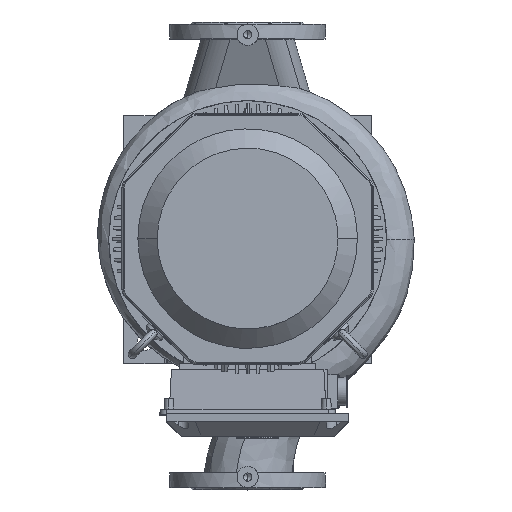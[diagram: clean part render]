
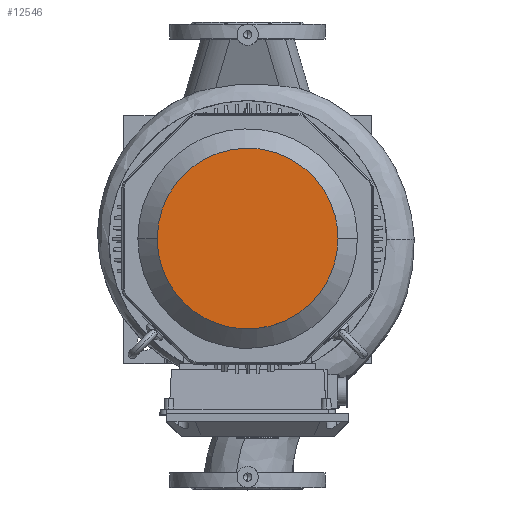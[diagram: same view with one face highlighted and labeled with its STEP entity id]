
A CAD part, top view. The second image highlights one B-rep face of the part: STEP entity #12546.
In plain terms, the highlighted free-form (B-spline) face has degree [1, 1] with [2, 2] control points.
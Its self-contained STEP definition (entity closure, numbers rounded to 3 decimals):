
#12546=ADVANCED_FACE('     F83',(#25190),#25191,.T.);
#12722=EDGE_CURVE('    E195',#25456,#25457,#25458,.T.);
#12726=EDGE_CURVE('    E195',#25457,#25456,#25462,.T.);
#25190=FACE_OUTER_BOUND('',#58738,.T.);
#25191=B_SPLINE_SURFACE_WITH_KNOTS('',1,1,((#58739,#58740),(#58741,#58742)),.UNSPECIFIED.,.F.,.F.,.F.,(2,2),(2,2),(0.044,0.955),(0.039,0.96),.UNSPECIFIED.);
#25456=VERTEX_POINT('',#60294);
#25457=VERTEX_POINT('',#60295);
#25458=(B_SPLINE_CURVE(2,(#60297,#60298,#60299,#60300,#60301),.UNSPECIFIED.,.F.,.F.)B_SPLINE_CURVE_WITH_KNOTS((3,2,3),(62.047,82.73,124.095),.UNSPECIFIED.)RATIONAL_B_SPLINE_CURVE((0.75,0.75,1.0,0.5,1.0))BOUNDED_CURVE()REPRESENTATION_ITEM('')GEOMETRIC_REPRESENTATION_ITEM()CURVE());
#25462=(B_SPLINE_CURVE(2,(#60315,#60316,#60317,#60318,#60319),.UNSPECIFIED.,.F.,.F.)B_SPLINE_CURVE_WITH_KNOTS((3,2,3),(0.0,41.365,62.047),.UNSPECIFIED.)RATIONAL_B_SPLINE_CURVE((1.0,0.5,1.0,0.75,0.75))BOUNDED_CURVE()REPRESENTATION_ITEM('')GEOMETRIC_REPRESENTATION_ITEM()CURVE());
#58738=EDGE_LOOP('',(#78895,#78896));
#58739=CARTESIAN_POINT('',(-148.051,129.131,-177.0));
#58740=CARTESIAN_POINT('',(-148.051,-126.525,-177.0));
#58741=CARTESIAN_POINT('',(107.447,129.131,-177.0));
#58742=CARTESIAN_POINT('',(107.447,-126.525,-177.0));
#60294=CARTESIAN_POINT('',(-147.622,1.096,-177.0));
#60295=CARTESIAN_POINT('',(107.438,1.096,-177.0));
#60297=CARTESIAN_POINT('',(-147.622,1.096,-177.0));
#60298=CARTESIAN_POINT('',(-147.622,-72.533,-177.0));
#60299=CARTESIAN_POINT('',(-83.857,-109.348,-177.0));
#60300=CARTESIAN_POINT('',(107.438,-219.792,-177.0));
#60301=CARTESIAN_POINT('',(107.438,1.096,-177.0));
#60315=CARTESIAN_POINT('',(107.438,1.096,-177.0));
#60316=CARTESIAN_POINT('',(107.438,221.985,-177.0));
#60317=CARTESIAN_POINT('',(-83.857,111.541,-177.0));
#60318=CARTESIAN_POINT('',(-147.622,74.726,-177.0));
#60319=CARTESIAN_POINT('',(-147.622,1.096,-177.0));
#78895=ORIENTED_EDGE('',*,*,#12726,.F.);
#78896=ORIENTED_EDGE('',*,*,#12722,.F.);
